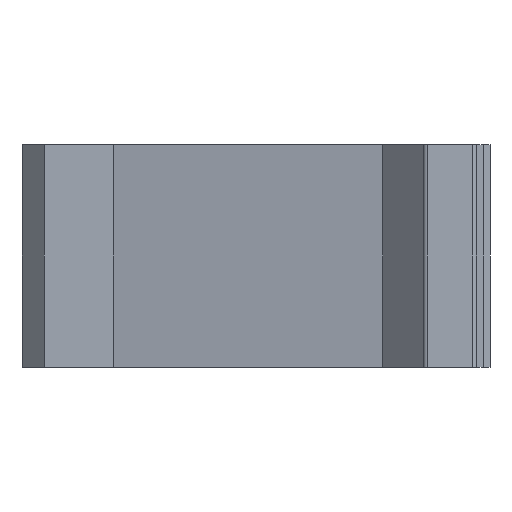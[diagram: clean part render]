
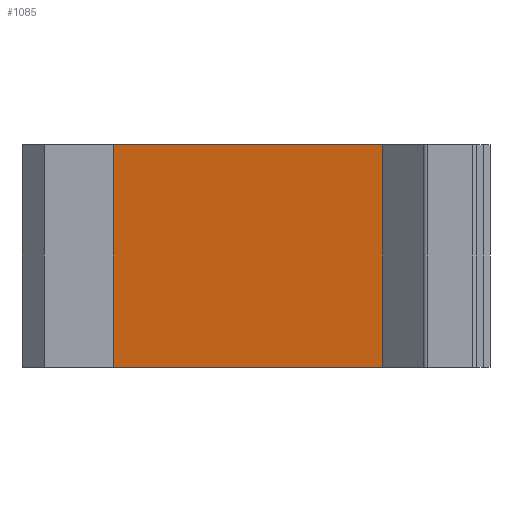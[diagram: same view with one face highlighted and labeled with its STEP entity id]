
A CAD part, front view. The second image highlights one B-rep face of the part: STEP entity #1085.
In plain terms, the highlighted planar face has unit normal (-0.176, -0.984, 0).
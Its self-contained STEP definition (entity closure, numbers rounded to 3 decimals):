
#1 = LINE ( 'NONE', #1181, #744 ) ;
#26 = DIRECTION ( 'NONE',  ( 0.176, 0.984, 0. ) ) ;
#39 = VECTOR ( 'NONE', #905, 1000. ) ;
#75 = CARTESIAN_POINT ( 'NONE',  ( -10.556, 17.997, 25. ) ) ;
#109 = ORIENTED_EDGE ( 'NONE', *, *, #381, .F. ) ;
#142 = CARTESIAN_POINT ( 'NONE',  ( -40.737, 23.4, 25. ) ) ;
#225 = AXIS2_PLACEMENT_3D ( 'NONE', #662, #26, #1107 ) ;
#250 = EDGE_CURVE ( 'NONE', #763, #656, #1, .T. ) ;
#307 = LINE ( 'NONE', #682, #560 ) ;
#371 = CARTESIAN_POINT ( 'NONE',  ( -10.556, 17.997, 0. ) ) ;
#380 = VERTEX_POINT ( 'NONE', #676 ) ;
#381 = EDGE_CURVE ( 'NONE', #380, #763, #307, .T. ) ;
#444 = DIRECTION ( 'NONE',  ( 0., 0., -1. ) ) ;
#498 = ORIENTED_EDGE ( 'NONE', *, *, #779, .T. ) ;
#505 = LINE ( 'NONE', #1277, #565 ) ;
#512 = EDGE_CURVE ( 'NONE', #380, #866, #1387, .T. ) ;
#560 = VECTOR ( 'NONE', #1323, 1000. ) ;
#565 = VECTOR ( 'NONE', #1374, 1000. ) ;
#656 = VERTEX_POINT ( 'NONE', #371 ) ;
#662 = CARTESIAN_POINT ( 'NONE',  ( -40.737, 23.4, 25. ) ) ;
#676 = CARTESIAN_POINT ( 'NONE',  ( -40.737, 23.4, 25. ) ) ;
#678 = PLANE ( 'NONE',  #225 ) ;
#682 = CARTESIAN_POINT ( 'NONE',  ( -40.737, 23.4, 25. ) ) ;
#735 = FACE_OUTER_BOUND ( 'NONE', #1283, .T. ) ;
#744 = VECTOR ( 'NONE', #444, 1000. ) ;
#763 = VERTEX_POINT ( 'NONE', #75 ) ;
#779 = EDGE_CURVE ( 'NONE', #866, #656, #505, .T. ) ;
#803 = ORIENTED_EDGE ( 'NONE', *, *, #512, .T. ) ;
#866 = VERTEX_POINT ( 'NONE', #1273 ) ;
#905 = DIRECTION ( 'NONE',  ( 0., 0., -1. ) ) ;
#974 = ORIENTED_EDGE ( 'NONE', *, *, #250, .F. ) ;
#1085 = ADVANCED_FACE ( 'NONE', ( #735 ), #678, .F. ) ;
#1107 = DIRECTION ( 'NONE',  ( -0.984, 0.176, 0. ) ) ;
#1181 = CARTESIAN_POINT ( 'NONE',  ( -10.556, 17.997, 25. ) ) ;
#1273 = CARTESIAN_POINT ( 'NONE',  ( -40.737, 23.4, 0. ) ) ;
#1277 = CARTESIAN_POINT ( 'NONE',  ( -40.737, 23.4, 0. ) ) ;
#1283 = EDGE_LOOP ( 'NONE', ( #498, #974, #109, #803 ) ) ;
#1323 = DIRECTION ( 'NONE',  ( 0.984, -0.176, 0. ) ) ;
#1374 = DIRECTION ( 'NONE',  ( 0.984, -0.176, 0. ) ) ;
#1387 = LINE ( 'NONE', #142, #39 ) ;
